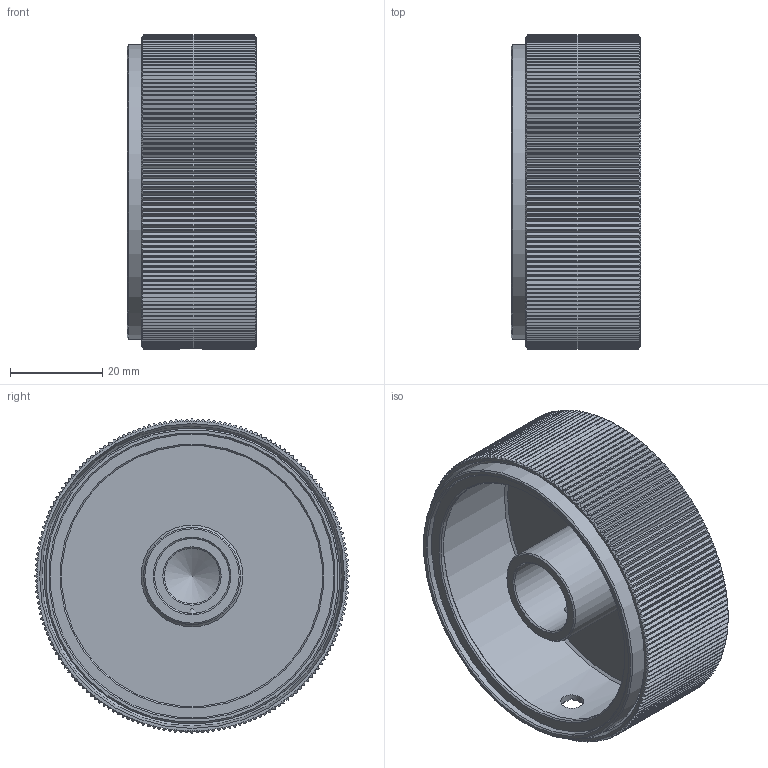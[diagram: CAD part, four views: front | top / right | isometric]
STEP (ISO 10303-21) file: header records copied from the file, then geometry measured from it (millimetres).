
FILE_DESCRIPTION(/* description */ ('Unknown'),/* implementation_level */ '2;1');
FILE_NAME(/* name */ 'RE011',/* time_stamp */ '2023-07-04T11:07:00+02:00',/* author */ ('Unknown'),/* organization */ ('Unknown'),/* preprocessor_version */ 'ST-DEVELOPER v18.102',/* originating_system */ 'Solid Edge',/* authorisation */ 'Unknown');
FILE_SCHEMA (('AUTOMOTIVE_DESIGN {1 0 10303 214 3 1 1}'));
Length unit declared in the file: millimetre
Products named in the file (8): RE011; RE011EXT_oa_0; RE002-06; RE011-02; GRP-4x3; RE006-023_oa_1; RE006-023_oa_2; RE006-023_oa_3
Assembly tree (7 placements, depth 3):
  RE011
    RE011EXT_oa_0
      RE002-06
      RE011-02
      GRP-4x3
      RE006-023_oa_1
      RE006-023_oa_2
      RE006-023_oa_3
Bounding box: 28.05 x 68 x 68 mm (x, y, z)
Volume: 18716.8 mm3; surface area: 24181.1 mm2
Topology: 3 solids, 3 shells, 967 faces, 2132 edges, 1177 vertices
Faces by surface type: plane 391, cone 381, cylinder 194, bspline 1
Full cylindrical faces by diameter (mm): 3.242 x1, 5 x1, 12 x1, 16.2 x1, 21 x1, 56.5 x1, 61.5 x2, 64 x1, 65 x1
Entity records: 33130 total; most frequent: CARTESIAN_POINT 6526, ORIENTED_EDGE 4180, DIRECTION 4079, EDGE_CURVE 2090, AXIS2_PLACEMENT_3D 1748, VERTEX_POINT 1168, FACE_BOUND 1012, EDGE_LOOP 1011
